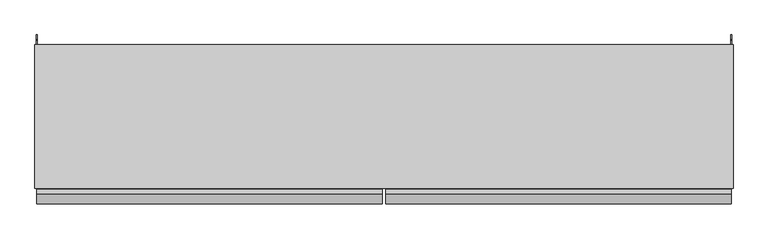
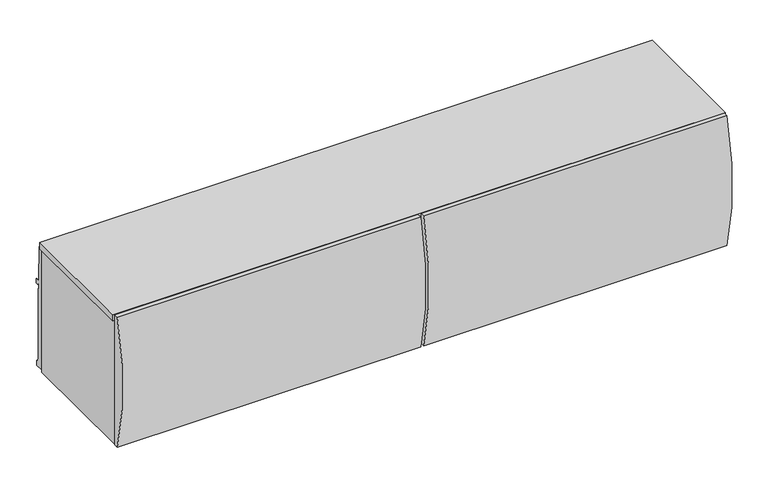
"""IFC4 building model written with IfcOpenShell, lengths in millimetres: furniture geometry, Steelcase - Universal Storage - Over the Case Bin - Radius Front : For Montage - 72W."""

from ifc_helpers import new_model, si_unit, point, frame, frame_2d, origin, place, context, project, spatial, polyline, circle_curve, trimmed, segment, composite_curve, outline, extrude, source, transform, mapped, element, save


def furniture_f768aca5(model_context):
    return source(origin(), model_context, "Body", "SweptSolid", [
        extrude(outline(composite_curve([segment(polyline([(-393.0769518, 1677.2612846), (-379.476, 1677.2612846), (-379.476, 1266.8226746), (-393.0769518, 1266.8226746)]), True, "CONTINUOUS"), segment(trimmed(circle_curve(frame_2d((352.6331971, 1472.0419796)), 773.4329895), [point((-393.0769518, 1266.8226746))], [point((-393.0769518, 1677.2612846))], False, "CARTESIAN"), True, "CONTINUOUS")], self_intersect=False)), frame((918.972, 0.0, 0.0), z_axis=(1.0, 0.0, 0.0), x_axis=(0.0, 1.0, 0.0)), (0.0, 0.0, 1.0), 905.3983),
        extrude(outline(composite_curve([segment(polyline([(-393.0769518, 1677.2612846), (-379.476, 1677.2612846), (-379.476, 1266.8226746), (-393.0769518, 1266.8226746)]), True, "CONTINUOUS"), segment(trimmed(circle_curve(frame_2d((352.6331971, 1472.0419796)), 773.4329895), [point((-393.0769518, 1266.8226746))], [point((-393.0769518, 1677.2612846))], False, "CARTESIAN"), True, "CONTINUOUS")], self_intersect=False)), frame((4.4448587, 0.0, 0.0), z_axis=(1.0, 0.0, 0.0), x_axis=(0.0, 1.0, 0.0)), (0.0, 0.0, 1.0), 905.3831413),
        extrude(outline(polyline([(0.0, 1657.096), (10.1677703, 1657.096), (13.3857995, 1545.8185744), (26.0095997, 1545.8185744), (26.0095997, 1532.1025512), (17.5768, 1532.1025512), (17.5768, 1537.1064608), (13.3349998, 1537.1064608), (13.3349998, 1522.6538546), (14.2747998, 1522.6538546), (14.2747998, 1296.0858527), (17.2466001, 1296.0858527), (17.2466001, 1289.7358043), (22.5806007, 1289.7358043), (22.5806007, 1274.2164027), (0.0, 1274.2164027), (0.0, 1657.096)])), frame((1823.2882, 0.0, 0.0), z_axis=(1.0, 0.0, 0.0), x_axis=(0.0, 1.0, 0.0)), (0.0, 0.0, 1.0), 1.905),
        extrude(outline(polyline([(1828.8, -377.213238), (0.0, -377.213238), (0.0, 0.0), (1828.8, 0.0), (1828.8, -377.213238)])), frame((0.0, 0.0, 1657.35), z_axis=(0.0, 0.0, 1.0), x_axis=(1.0, 0.0, 0.0)), (0.0, 0.0, 1.0), 19.05),
        extrude(outline(polyline([(15.875, -377.213238), (5.5118, -377.213238), (5.5118, 0.0), (15.875, 0.0), (15.875, -377.213238)])), frame((0.0, 0.0, 1265.428), z_axis=(0.0, 0.0, 1.0), x_axis=(1.0, 0.0, 0.0)), (0.0, 0.0, 1.0), 391.6679457),
        extrude(outline(polyline([(1827.6568665, -377.213238), (1812.925, -377.213238), (1812.925, 0.0), (1827.6568665, 0.0), (1827.6568665, -377.213238)])), frame((0.0, 0.0, 1265.428), z_axis=(0.0, 0.0, 1.0), x_axis=(1.0, 0.0, 0.0)), (0.0, 0.0, 1.0), 391.6679457),
        extrude(outline(polyline([(0.0, 1657.096), (10.1677703, 1657.096), (13.3857995, 1545.8185744), (26.0095997, 1545.8185744), (26.0095997, 1532.1025512), (17.5768, 1532.1025512), (17.5768, 1537.1064608), (13.3349998, 1537.1064608), (13.3349998, 1522.6538546), (14.2747998, 1522.6538546), (14.2747998, 1296.0858527), (17.2466001, 1296.0858527), (17.2466001, 1289.7358043), (22.5806007, 1289.7358043), (22.5806007, 1274.2164027), (0.0, 1274.2164027), (0.0, 1657.096)])), frame((3.6068, 0.0, 0.0), z_axis=(1.0, 0.0, 0.0), x_axis=(0.0, 1.0, 0.0)), (0.0, 0.0, 1.0), 1.905),
        extrude(outline(polyline([(-35.4584098, 1372.819257), (-27.0763996, 1372.819257), (-27.0763996, 1360.1191601), (-33.4264117, 1360.1191601), (-33.4264117, 1323.1622589), (-27.0763996, 1323.1622589), (-27.0763996, 1265.428), (-35.4584098, 1265.428), (-35.4584098, 1293.054213), (-46.1263996, 1293.054213), (-46.1263996, 1268.1875622), (-59.9694137, 1268.1875622), (-59.9694137, 1294.8575912), (-332.8542818, 1294.8575912), (-332.8542818, 1268.1875622), (-377.3042823, 1268.1875622), (-377.3042823, 1310.7072052), (-35.4584098, 1310.7072052), (-35.4584098, 1372.819257)])), frame((15.875, 0.0, 0.0), z_axis=(1.0, 0.0, 0.0), x_axis=(0.0, 1.0, 0.0)), (0.0, 0.0, 1.0), 1797.05),
    ])


if __name__ == "__main__":
    model = new_model("IFC4")
    model_context = context("Model", 3, world=origin())
    ifc_project = project(units=[si_unit("LENGTHUNIT", "METRE", prefix="MILLI")], contexts=[model_context])
    site = spatial("IfcSite", under=ifc_project)
    building = spatial("IfcBuilding", under=site)
    placement = place(None, origin())
    furniture_shape = furniture_f768aca5(model_context)
    element("IfcFurniture", 1, ObjectType="Steelcase - Universal Storage - Over the Case Bin - Radius Front : For Montage - 72W", at=placement, inside=building, context=model_context, shape_type="MappedRepresentation", body=[
        mapped(furniture_shape, transform((0.0, 0.0, 0.0), x_axis=(1.0, 0.0, 0.0), y_axis=(0.0, 1.0, 0.0), z_axis=(0.0, 0.0, 1.0))),
    ])
    save(model, "model.ifc")
